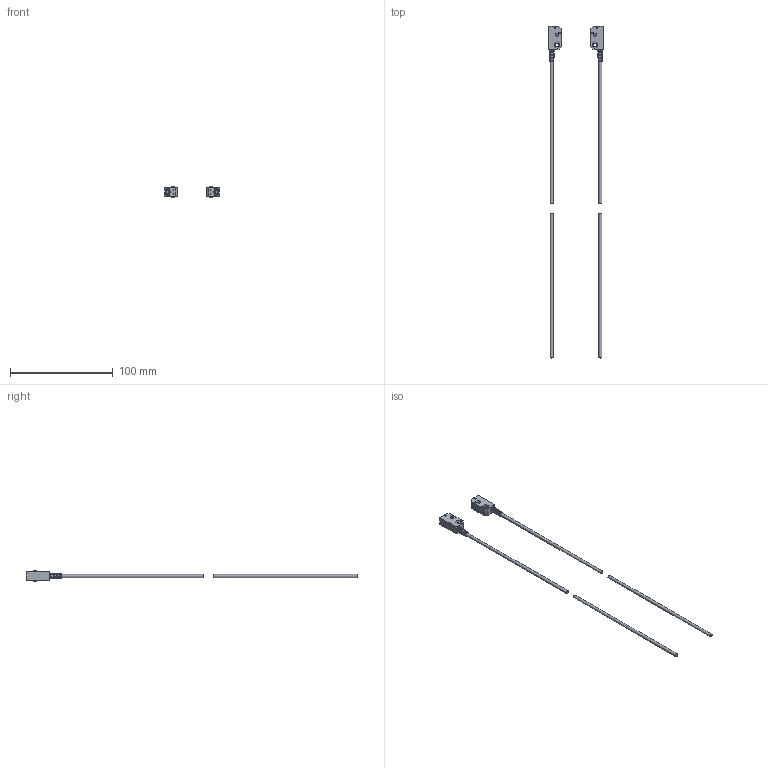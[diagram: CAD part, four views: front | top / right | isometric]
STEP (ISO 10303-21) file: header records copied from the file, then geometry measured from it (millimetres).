
FILE_DESCRIPTION(/* description */ (''),/* implementation_level */ '2;1');
FILE_NAME(/* name */ 'PJTI-S150N',/* time_stamp */ '2020-06-10T10:55:58+08:00',/* author */ (''),/* organization */ (''),/* preprocessor_version */ 'ST-DEVELOPER v9',/* originating_system */ 'UGS - NX 4.0',/* authorisation */ '');
FILE_SCHEMA (('CONFIG_CONTROL_DESIGN'));
Length unit declared in the file: millimetre
Products named in the file (1): PJTI-S150N
Bounding box: 52.8 x 322.33 x 10 mm (x, y, z)
Volume: 8466.6 mm3; surface area: 9815.1 mm2
Topology: 10 solids, 14 shells, 426 faces, 1164 edges, 770 vertices
Faces by surface type: plane 308, cylinder 98, torus 8, sphere 8, cone 4
Full cylindrical faces by diameter (mm): 3 x10, 3.3 x2, 4 x2
Entity records: 16500 total; most frequent: CARTESIAN_POINT 5625, ORIENTED_EDGE 2256, DIRECTION 2142, EDGE_CURVE 1128, LINE 776, VECTOR 776, VERTEX_POINT 758, AXIS2_PLACEMENT_3D 683
